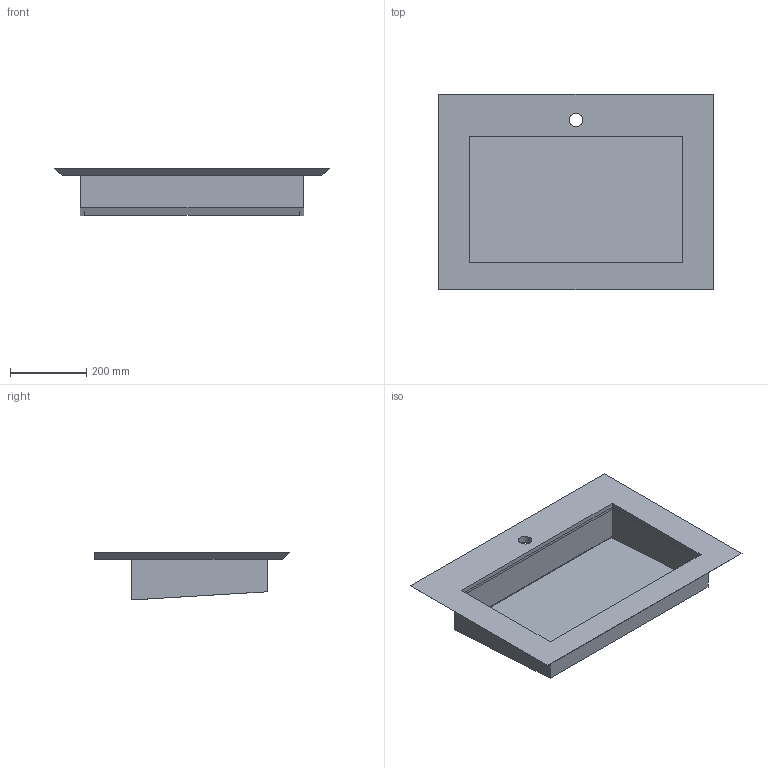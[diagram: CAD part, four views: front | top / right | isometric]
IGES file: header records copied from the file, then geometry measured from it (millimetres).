
Start section: Data from Parasolid IGES Translator 19.0.9, Copyright(c) 2006 Siemens PL M Software. All Rights Reserved.
Global section: file name: noorth-top-H 1,9 D 51,3 W 72_4650.igs; native system: By Siemens PLM Incorporated; preprocessor: XPlus GENERIC/IGES 19.0.9; author: Noname; organization: Noname; date: 20200603.113542; units: metre
Bounding box: 720 x 512 x 125.73 mm (x, y, z)
Volume: 7832954.3 mm3; surface area: 1190825.1 mm2
Topology: 2 solids, 2 shells, 30 faces, 81 edges, 54 vertices
Faces by surface type: plane 29, cylinder 1
Full cylindrical faces by diameter (mm): 34.9 x1
